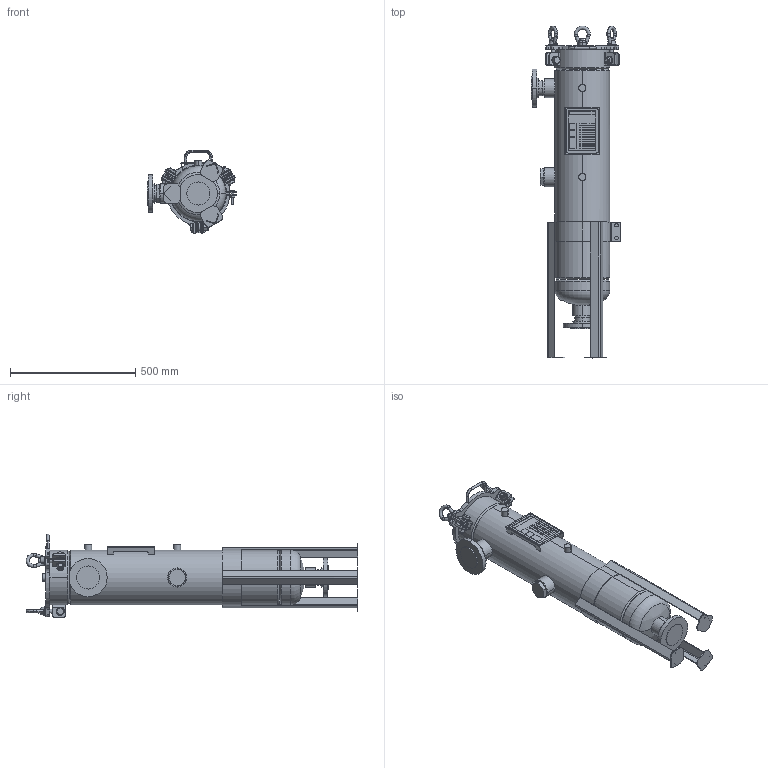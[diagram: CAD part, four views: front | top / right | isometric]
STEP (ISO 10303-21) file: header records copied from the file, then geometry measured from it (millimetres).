
FILE_DESCRIPTION (( 'STEP AP203' ), '1' );
FILE_NAME ('002002-18543.step', '2026-01-06T15:50:55', ( '' ), ( '' ), 'SwSTEP 2.0', 'SolidWorks 2023', '' );
FILE_SCHEMA (( 'CONFIG_CONTROL_DESIGN' ));
Length unit declared in the file: inch
Products named in the file (1): 002002-18543
Bounding box: 355.6 x 1325.79 x 332.85 mm (x, y, z)
Volume: 41070087.8 mm3; surface area: 1667510.2 mm2
Topology: 13 solids, 13 shells, 830 faces, 1959 edges, 1210 vertices
Faces by surface type: plane 320, cylinder 239, cone 161, torus 57, bspline 51, sphere 2
Entity records: 27464 total; most frequent: CARTESIAN_POINT 8577, DIRECTION 3981, ORIENTED_EDGE 3894, EDGE_CURVE 1947, AXIS2_PLACEMENT_3D 1594, VERTEX_POINT 1210, EDGE_LOOP 915, ADVANCED_FACE 830
